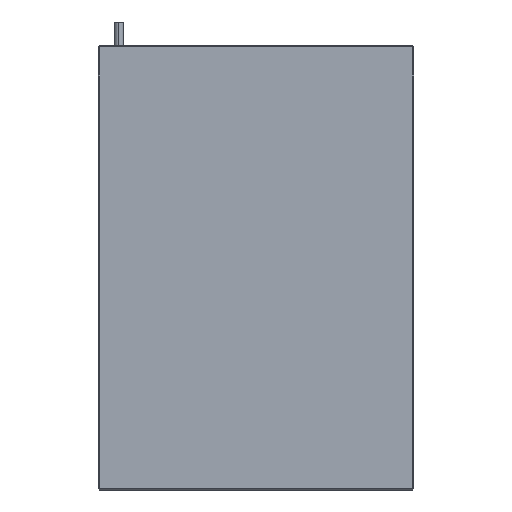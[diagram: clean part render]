
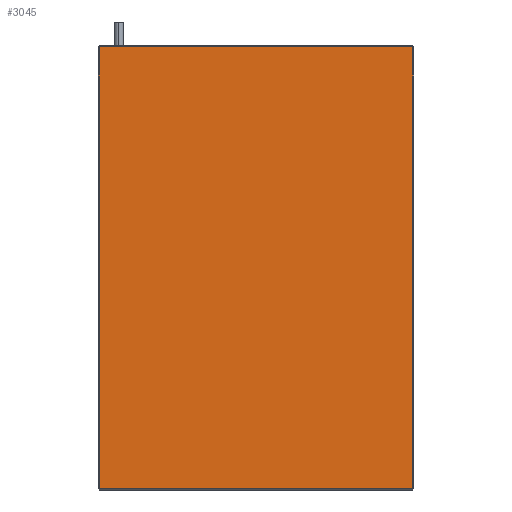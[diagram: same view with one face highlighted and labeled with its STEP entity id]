
A CAD part, left-side view. The second image highlights one B-rep face of the part: STEP entity #3045.
In plain terms, the highlighted planar face has unit normal (-1, 0, 0).
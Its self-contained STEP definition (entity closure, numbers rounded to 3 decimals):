
#1238 = ORIENTED_EDGE ( 'NONE', *, *, #39148, .T. ) ;
#2843 = VERTEX_POINT ( 'NONE', #34213 ) ;
#3045 = ADVANCED_FACE ( 'NONE', ( #13968 ), #35598, .F. ) ;
#4182 = CARTESIAN_POINT ( 'NONE',  ( -65., -66., -93. ) ) ;
#4561 = CARTESIAN_POINT ( 'NONE',  ( -65., 66.5, -93. ) ) ;
#8122 = VECTOR ( 'NONE', #50079, 1000. ) ;
#8789 = VECTOR ( 'NONE', #20668, 1000. ) ;
#10162 = LINE ( 'NONE', #32900, #19574 ) ;
#10697 = AXIS2_PLACEMENT_3D ( 'NONE', #23476, #11577, #39625 ) ;
#11513 = VERTEX_POINT ( 'NONE', #4182 ) ;
#11577 = DIRECTION ( 'NONE',  ( 1., 0., 0. ) ) ;
#12942 = DIRECTION ( 'NONE',  ( 0., 0., 1. ) ) ;
#13968 = FACE_OUTER_BOUND ( 'NONE', #51888, .T. ) ;
#15099 = CARTESIAN_POINT ( 'NONE',  ( -65., 66., 93. ) ) ;
#18793 = LINE ( 'NONE', #45857, #8122 ) ;
#19201 = ORIENTED_EDGE ( 'NONE', *, *, #41145, .T. ) ;
#19446 = LINE ( 'NONE', #4561, #8789 ) ;
#19574 = VECTOR ( 'NONE', #12942, 1000. ) ;
#20668 = DIRECTION ( 'NONE',  ( 0., -1., 0. ) ) ;
#21302 = CARTESIAN_POINT ( 'NONE',  ( -65., 66., 93.5 ) ) ;
#23476 = CARTESIAN_POINT ( 'NONE',  ( -65., 66.5, 93.5 ) ) ;
#28702 = ORIENTED_EDGE ( 'NONE', *, *, #38925, .T. ) ;
#31578 = ORIENTED_EDGE ( 'NONE', *, *, #32022, .T. ) ;
#32022 = EDGE_CURVE ( 'NONE', #11513, #2843, #10162, .T. ) ;
#32040 = VERTEX_POINT ( 'NONE', #49009 ) ;
#32900 = CARTESIAN_POINT ( 'NONE',  ( -65., -66., 93.5 ) ) ;
#34213 = CARTESIAN_POINT ( 'NONE',  ( -65., -66., 93. ) ) ;
#35598 = PLANE ( 'NONE',  #10697 ) ;
#38705 = VERTEX_POINT ( 'NONE', #15099 ) ;
#38925 = EDGE_CURVE ( 'NONE', #32040, #11513, #19446, .T. ) ;
#39148 = EDGE_CURVE ( 'NONE', #2843, #38705, #18793, .T. ) ;
#39625 = DIRECTION ( 'NONE',  ( 0., 0., -1. ) ) ;
#40662 = VECTOR ( 'NONE', #49338, 1000. ) ;
#41145 = EDGE_CURVE ( 'NONE', #38705, #32040, #51320, .T. ) ;
#45857 = CARTESIAN_POINT ( 'NONE',  ( -65., 66.5, 93. ) ) ;
#49009 = CARTESIAN_POINT ( 'NONE',  ( -65., 66., -93. ) ) ;
#49338 = DIRECTION ( 'NONE',  ( 0., 0., -1. ) ) ;
#50079 = DIRECTION ( 'NONE',  ( 0., 1., 0. ) ) ;
#51320 = LINE ( 'NONE', #21302, #40662 ) ;
#51888 = EDGE_LOOP ( 'NONE', ( #1238, #19201, #28702, #31578 ) ) ;
